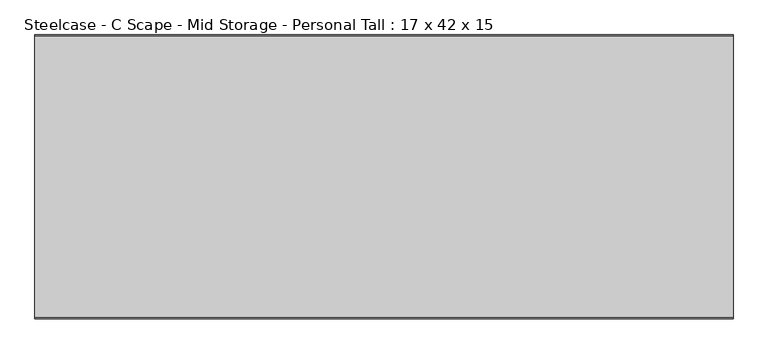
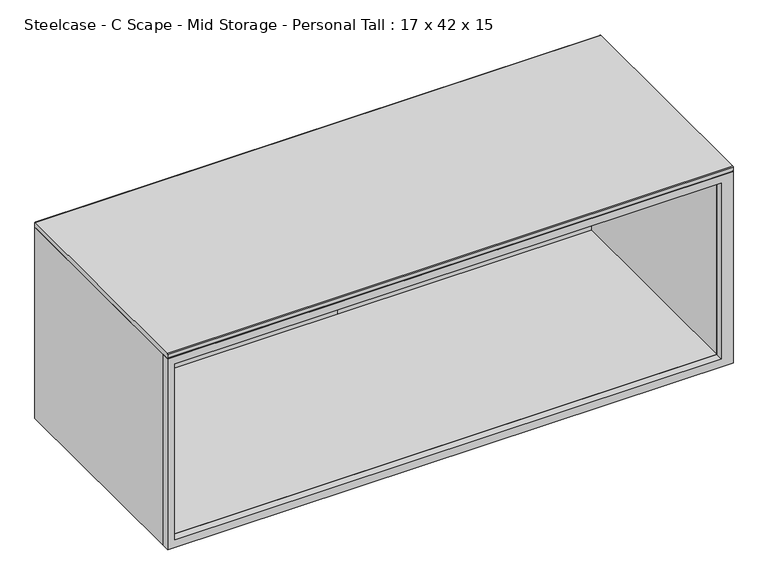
"""IFC4 building model written with IfcOpenShell, lengths in millimetres: furniture geometry, Steelcase - C Scape - Mid Storage - Personal Tall : 17 x 42 x 15."""

import ifcopenshell
import ifcopenshell.guid

model = None  # the IFC model being written
_history = None  # IfcOwnerHistory: only IFC2X3 demands one
_inside = {}  # id of a spatial element -> (the spatial element, [elements in it])
_under = {}  # id of a project, library or spatial element -> (it, [spatial elements below it])
_declared = {}  # id of a project -> (the project, [libraries it declares])
_typed = {}  # id of a type object -> (the type object, [elements of that type])
_made_of = {}  # id of a material, layer set ... -> (it, [elements and type objects made of it])


def new_model(schema):
    """Start an empty IFC model of exactly this schema.

    Asked for "IFC4X3", IfcOpenShell would pick the latest addendum, in which some entities
    have other attributes; the version numbers below select the first issue.
    IFC2X3 requires an IfcOwnerHistory on every rooted entity: one is made here for all.
    """
    global model, _history
    if schema == "IFC4X3":
        model = ifcopenshell.file(schema_version=(4, 3, 0, 0))
    else:
        model = ifcopenshell.file(schema=schema)
    _inside.clear()
    _under.clear()
    _declared.clear()
    _typed.clear()
    _made_of.clear()
    _history = None
    if model.schema == "IFC2X3":
        org = make("IfcOrganization", Name="unknown")
        user = make(
            "IfcPersonAndOrganization",
            ThePerson=make("IfcPerson", FamilyName="unknown"),
            TheOrganization=org,
        )
        app = make(
            "IfcApplication",
            ApplicationDeveloper=org,
            Version="unknown",
            ApplicationFullName="unknown",
            ApplicationIdentifier="unknown",
        )
        _history = make(
            "IfcOwnerHistory",
            OwningUser=user,
            OwningApplication=app,
            ChangeAction="ADDED",
            CreationDate=0,
        )
    return model


def make(cls, **values):
    """One entity of the class cls with the attributes given. An attribute that is None is left unset."""
    return model.create_entity(
        cls, **{name: value for name, value in values.items() if value is not None}
    )


def rooted(cls, **values):
    """An entity with a GlobalId (a new one), such as an element, a storey or a relation."""
    return make(cls, GlobalId=ifcopenshell.guid.new(), OwnerHistory=_history, **values)


def si_unit(unit_type, name, prefix=None):
    """IfcSIUnit, for example si_unit("LENGTHUNIT", "METRE", prefix="MILLI")."""
    return make("IfcSIUnit", UnitType=unit_type, Prefix=prefix, Name=name)


def assignment(units):
    """IfcUnitAssignment: the units of a project."""
    return None if units is None else make("IfcUnitAssignment", Units=units)


def point(xyz):
    """IfcCartesianPoint."""
    return None if xyz is None else make("IfcCartesianPoint", Coordinates=xyz)


def direction(xyz):
    """IfcDirection."""
    return None if xyz is None else make("IfcDirection", DirectionRatios=xyz)


def frame(location, z_axis=None, x_axis=None):
    """IfcAxis2Placement3D, a coordinate frame: its origin and axes. An axis left out is left unset."""
    return make(
        "IfcAxis2Placement3D",
        Location=point(location),
        Axis=direction(z_axis),
        RefDirection=direction(x_axis),
    )


def frame_2d(location, x_axis=None):
    """IfcAxis2Placement2D, a coordinate frame in the plane: its origin and x axis."""
    return make(
        "IfcAxis2Placement2D", Location=point(location), RefDirection=direction(x_axis)
    )


def origin():
    """The frame at (0, 0, 0) with its axes left unset."""
    return frame((0.0, 0.0, 0.0))


def place(relative_to, where):
    """IfcLocalPlacement: puts the frame where relative to a parent placement (None: the world)."""
    return make(
        "IfcLocalPlacement", PlacementRelTo=relative_to, RelativePlacement=where
    )


def context(
    kind, dimensions, precision=None, world=None, true_north=None, identifier=None
):
    """IfcGeometricRepresentationContext, for example the 3D "Model" context."""
    return make(
        "IfcGeometricRepresentationContext",
        ContextIdentifier=identifier,
        ContextType=kind,
        CoordinateSpaceDimension=dimensions,
        Precision=precision,
        WorldCoordinateSystem=world,
        TrueNorth=true_north,
    )


def project(units=None, contexts=None):
    """IfcProject with its units and contexts."""
    return rooted(
        "IfcProject",
        Name="project",
        RepresentationContexts=contexts,
        UnitsInContext=assignment(units),
    )


def spatial(cls, under=None, at=None, **own):
    """A site, building, storey or space (cls), placed at a placement, below another one or the project."""
    s = rooted(cls, ObjectPlacement=at, **own)
    if under is not None:
        _under.setdefault(under.id(), (under, []))[1].append(s)
    return s


def polyline(points):
    """IfcPolyline through the points."""
    return make("IfcPolyline", Points=[point(p) for p in points])


def circle_curve(where, radius):
    """IfcCircle in the frame where."""
    return make("IfcCircle", Position=where, Radius=radius)


def trimmed(basis, trim1, trim2, sense, master):
    """IfcTrimmedCurve: the piece of a basis curve between two trims."""
    return make(
        "IfcTrimmedCurve",
        BasisCurve=basis,
        Trim1=trim1,
        Trim2=trim2,
        SenseAgreement=sense,
        MasterRepresentation=master,
    )


def segment(curve, same_sense, transition):
    """IfcCompositeCurveSegment."""
    return make(
        "IfcCompositeCurveSegment",
        Transition=transition,
        SameSense=same_sense,
        ParentCurve=curve,
    )


def composite_curve(segments, self_intersect=None):
    """IfcCompositeCurve: segments joined end to end."""
    return make("IfcCompositeCurve", Segments=segments, SelfIntersect=self_intersect)


def outline(outer, holes=None, kind="AREA"):
    """IfcArbitraryClosedProfileDef: a profile drawn as a closed curve; with holes, ...WithVoids."""
    if holes is None:
        return make("IfcArbitraryClosedProfileDef", ProfileType=kind, OuterCurve=outer)
    return make(
        "IfcArbitraryProfileDefWithVoids",
        ProfileType=kind,
        OuterCurve=outer,
        InnerCurves=holes,
    )


def extrude(swept, where, along, depth):
    """IfcExtrudedAreaSolid: the profile swept, set in the frame where, extruded along a direction by depth."""
    return make(
        "IfcExtrudedAreaSolid",
        SweptArea=swept,
        Position=where,
        ExtrudedDirection=direction(along),
        Depth=depth,
    )


def shape(context_of_items, identifier, shape_type, items):
    """IfcShapeRepresentation: the items that make up one representation, for example the "Body"."""
    return make(
        "IfcShapeRepresentation",
        ContextOfItems=context_of_items,
        RepresentationIdentifier=identifier,
        RepresentationType=shape_type,
        Items=items,
    )


def source(mapping_origin, context_of_items, identifier, shape_type, items):
    """IfcRepresentationMap: a shape defined once, which mapped items show again and again."""
    return make(
        "IfcRepresentationMap",
        MappingOrigin=mapping_origin,
        MappedRepresentation=shape(context_of_items, identifier, shape_type, items),
    )


def transform(
    local_origin,
    x_axis=None,
    y_axis=None,
    z_axis=None,
    scale=None,
    scale2=None,
    scale3=None,
    uniform=True,
):
    """IfcCartesianTransformationOperator3D, or its non-uniform kind. x_axis, y_axis, z_axis: its Axis1, 2, 3."""
    if uniform:
        return make(
            "IfcCartesianTransformationOperator3D",
            Axis1=direction(x_axis),
            Axis2=direction(y_axis),
            LocalOrigin=point(local_origin),
            Scale=scale,
            Axis3=direction(z_axis),
        )
    return make(
        "IfcCartesianTransformationOperator3DnonUniform",
        Axis1=direction(x_axis),
        Axis2=direction(y_axis),
        LocalOrigin=point(local_origin),
        Scale=scale,
        Axis3=direction(z_axis),
        Scale2=scale2,
        Scale3=scale3,
    )


def mapped(mapping_source, mapping_target):
    """IfcMappedItem: shows the shape of a source again, moved by a transform."""
    return make(
        "IfcMappedItem", MappingSource=mapping_source, MappingTarget=mapping_target
    )


def made_of(thing, what):
    """Note that an element or type object is made of a material, layer set ...; save() writes the relation."""
    if what is not None:
        _made_of.setdefault(what.id(), (what, []))[1].append(thing)
    return thing


def element(
    cls,
    number,
    at=None,
    inside=None,
    cuts=None,
    type_object=None,
    material=None,
    context=None,
    identifier="Body",
    shape_type=None,
    held_by="IfcProductDefinitionShape",
    body=None,
    shapes=None,
    **own,
):
    """One element of the class cls, such as IfcWall. Its Tag is "e" and its number.

    at: its placement. inside: the storey or other place that contains it. cuts: it is an
    opening in that element (IfcRelVoidsElement). A single representation is given by context,
    identifier, shape_type and body (its items); several are given by shapes. held_by: the class
    of the entity that holds the representations. save() writes the other relations.
    """
    e = rooted(cls, Tag="e%d" % number, ObjectPlacement=at, **own)
    if body is not None:
        shapes = [shape(context, identifier, shape_type, body)]
    if shapes is not None:
        e.Representation = make(held_by, Representations=shapes)
    if inside is not None:
        _inside.setdefault(inside.id(), (inside, []))[1].append(e)
    if cuts is not None:
        rooted(
            "IfcRelVoidsElement", RelatingBuildingElement=cuts, RelatedOpeningElement=e
        )
    if type_object is not None:
        _typed.setdefault(type_object.id(), (type_object, []))[1].append(e)
    return made_of(e, material)


def aggregate(whole, parts):
    """IfcRelAggregates: a whole, such as a stair, and the parts it consists of."""
    return rooted("IfcRelAggregates", RelatingObject=whole, RelatedObjects=parts)


def save(model, path):
    """Write the relations noted so far, then the file.

    IfcRelAggregates (storeys below a building ...), IfcRelContainedInSpatialStructure (elements
    in a storey), IfcRelDefinesByType, IfcRelAssociatesMaterial and IfcRelDeclares: one each for
    every whole, place, type object, material and project.
    """
    for whole, parts in _under.values():
        aggregate(whole, parts)
    for where, things in _inside.values():
        rooted(
            "IfcRelContainedInSpatialStructure",
            RelatedElements=things,
            RelatingStructure=where,
        )
    for kind, things in _typed.values():
        rooted("IfcRelDefinesByType", RelatedObjects=things, RelatingType=kind)
    for what, things in _made_of.values():
        rooted("IfcRelAssociatesMaterial", RelatedObjects=things, RelatingMaterial=what)
    for by, libraries in _declared.values():
        rooted("IfcRelDeclares", RelatingContext=by, RelatedDefinitions=libraries)
    model.write(path)


def steelcase_c_scape_mid_storage_personal_tall_17_x_42_x_15_a57ad96f(model_context):
    return source(origin(), model_context, "Body", "SweptSolid", [
        extrude(outline(polyline([(1219.2, 1065.53), (1219.2, 0.0), (838.2, 0.0), (838.2, 1065.53), (1219.2, 1065.53)]), holes=[polyline([(1203.9092, 1043.432), (853.4399855, 1043.432), (853.4399855, 13.437709), (1203.9092, 13.437709), (1203.9092, 1043.432)])]), frame((0.0, -216.535, 0.0), z_axis=(0.0, 1.0, 0.0), x_axis=(0.0, 0.0, 1.0)), (0.0, 0.0, 1.0), 14.3764481),
        extrude(outline(polyline([(1043.432, 207.0105809), (1043.432, -187.7821039), (13.437709, -187.7821039), (13.437709, 207.0105809), (1043.432, 207.0105809)])), frame((0.0, 0.0, 1203.9600145), z_axis=(0.0, 0.0, 1.0), x_axis=(1.0, 0.0, 0.0)), (0.0, 0.0, 1.0), 15.2399855),
        extrude(outline(polyline([(1043.432, 207.0105809), (1043.432, -202.1585519), (13.437709, -202.1585519), (13.437709, 207.0105809), (1043.432, 207.0105809)])), frame((0.0, 0.0, 838.2), z_axis=(0.0, 0.0, 1.0), x_axis=(1.0, 0.0, 0.0)), (0.0, 0.0, 1.0), 15.2399855),
        extrude(outline(composite_curve([segment(polyline([(-215.265, 1229.36), (215.265, 1229.36)]), True, "CONTINUOUS"), segment(trimmed(circle_curve(frame_2d((215.265, 1228.09)), 1.27), [point((215.265, 1229.36))], [point((216.535, 1228.09))], False, "CARTESIAN"), True, "CONTINUOUS"), segment(polyline([(216.535, 1228.09), (216.535, 1220.47)]), True, "CONTINUOUS"), segment(trimmed(circle_curve(frame_2d((215.265, 1220.47)), 1.27), [point((216.535, 1220.47))], [point((215.265, 1219.2))], False, "CARTESIAN"), True, "CONTINUOUS"), segment(polyline([(215.265, 1219.2), (-215.265, 1219.2)]), True, "CONTINUOUS"), segment(trimmed(circle_curve(frame_2d((-215.265, 1220.47)), 1.27), [point((-215.265, 1219.2))], [point((-216.535, 1220.47))], False, "CARTESIAN"), True, "CONTINUOUS"), segment(polyline([(-216.535, 1220.47), (-216.535, 1228.09)]), True, "CONTINUOUS"), segment(trimmed(circle_curve(frame_2d((-215.265, 1228.09)), 1.27), [point((-216.535, 1228.09))], [point((-215.265, 1229.36))], False, "CARTESIAN"), True, "CONTINUOUS")], self_intersect=False)), frame((0.0, 0.0, 0.0), z_axis=(1.0, 0.0, 0.0), x_axis=(0.0, 1.0, 0.0)), (0.0, 0.0, 1.0), 1065.53),
        extrude(outline(polyline([(13.437709, -202.1585519), (0.0, -202.1585519), (0.0, 216.535), (1065.53, 216.535), (1065.53, -202.1585519), (1043.432, -202.1585519), (1043.432, 207.0105809), (564.0542922, 207.0105809), (13.437709, 207.0105809), (13.437709, -202.1585519)])), frame((0.0, 0.0, 838.2), z_axis=(0.0, 0.0, 1.0), x_axis=(1.0, 0.0, 0.0)), (0.0, 0.0, 1.0), 381.0),
    ])


if __name__ == "__main__":
    model = new_model("IFC4")
    model_context = context("Model", 3, world=origin())
    ifc_project = project(units=[si_unit("LENGTHUNIT", "METRE", prefix="MILLI")], contexts=[model_context])
    site = spatial("IfcSite", under=ifc_project)
    building = spatial("IfcBuilding", under=site)
    placement = place(None, origin())
    steelcase_c_scape_mid_storage_personal_tall_17_x_42_x_15_shape = steelcase_c_scape_mid_storage_personal_tall_17_x_42_x_15_a57ad96f(model_context)
    element("IfcFurniture", 1, ObjectType="Steelcase - C Scape - Mid Storage - Personal Tall : 17 x 42 x 15", at=placement, inside=building, context=model_context, shape_type="MappedRepresentation", body=[
        mapped(steelcase_c_scape_mid_storage_personal_tall_17_x_42_x_15_shape, transform((0.0, 0.0, 0.0), x_axis=(1.0, 0.0, 0.0), y_axis=(0.0, 1.0, 0.0), z_axis=(0.0, 0.0, 1.0))),
    ])
    save(model, "model.ifc")
